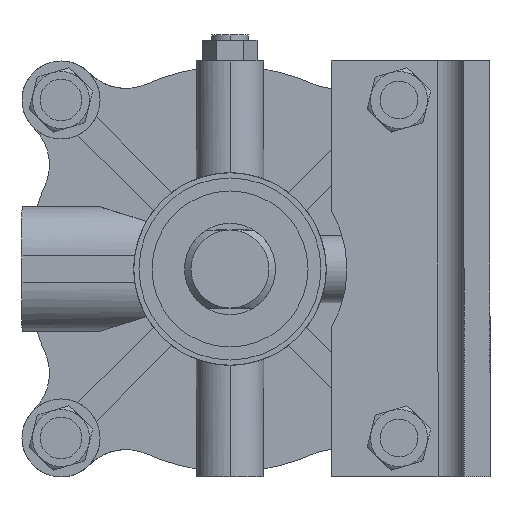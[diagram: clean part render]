
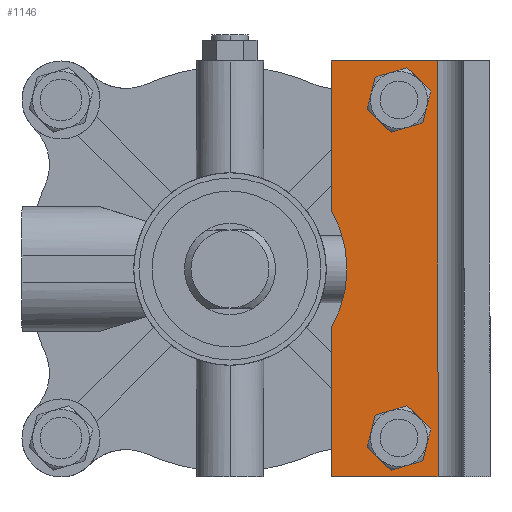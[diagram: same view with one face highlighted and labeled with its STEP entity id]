
A CAD part, left-side view. The second image highlights one B-rep face of the part: STEP entity #1146.
In plain terms, the highlighted planar face has unit normal (-1, 0, 0) as drawn and (0, 0, 1) by its records, which use the part's own axes.
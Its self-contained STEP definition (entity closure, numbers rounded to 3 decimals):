
#6 = DIRECTION ( 'NONE',  ( 0., 0., 1. ) ) ;
#55 = CARTESIAN_POINT ( 'NONE',  ( 65., -50.135, 0. ) ) ;
#185 = CARTESIAN_POINT ( 'NONE',  ( 80., -24.135, 0. ) ) ;
#417 = AXIS2_PLACEMENT_3D ( 'NONE', #55, #5046, #1692 ) ;
#737 = DIRECTION ( 'NONE',  ( 1., 0., 0. ) ) ;
#896 = CARTESIAN_POINT ( 'NONE',  ( -73., -50.135, 0. ) ) ;
#991 = ORIENTED_EDGE ( 'NONE', *, *, #3270, .F. ) ;
#996 = EDGE_CURVE ( 'NONE', #4505, #3107, #3037, .T. ) ;
#1135 = AXIS2_PLACEMENT_3D ( 'NONE', #4994, #6, #6012 ) ;
#1146 = ADVANCED_FACE ( 'NONE', ( #7066, #9922, #4063 ), #3907, .T. ) ;
#1391 = VECTOR ( 'NONE', #8761, 1000. ) ;
#1453 = CARTESIAN_POINT ( 'NONE',  ( 0., 14.865, 0. ) ) ;
#1692 = DIRECTION ( 'NONE',  ( 1., 0., 0. ) ) ;
#1942 = ORIENTED_EDGE ( 'NONE', *, *, #1997, .T. ) ;
#1997 = EDGE_CURVE ( 'NONE', #3107, #2537, #9302, .T. ) ;
#2447 = VERTEX_POINT ( 'NONE', #896 ) ;
#2537 = VERTEX_POINT ( 'NONE', #2727 ) ;
#2727 = CARTESIAN_POINT ( 'NONE',  ( -80., -65.135, 0. ) ) ;
#2734 = ORIENTED_EDGE ( 'NONE', *, *, #7710, .F. ) ;
#3037 = LINE ( 'NONE', #10081, #8771 ) ;
#3107 = VERTEX_POINT ( 'NONE', #4504 ) ;
#3143 = VECTOR ( 'NONE', #9564, 1000. ) ;
#3154 = CARTESIAN_POINT ( 'NONE',  ( 57., -50.135, 0. ) ) ;
#3165 = DIRECTION ( 'NONE',  ( 1., 0., 0. ) ) ;
#3270 = EDGE_CURVE ( 'NONE', #5306, #2447, #4562, .T. ) ;
#3376 = CARTESIAN_POINT ( 'NONE',  ( 65., -50.135, 0. ) ) ;
#3545 = VECTOR ( 'NONE', #6857, 1000. ) ;
#3907 = PLANE ( 'NONE',  #7722 ) ;
#3994 = ORIENTED_EDGE ( 'NONE', *, *, #5578, .T. ) ;
#4004 = EDGE_CURVE ( 'NONE', #9782, #9675, #6440, .T. ) ;
#4063 = FACE_BOUND ( 'NONE', #9184, .T. ) ;
#4109 = CIRCLE ( 'NONE', #417, 8. ) ;
#4504 = CARTESIAN_POINT ( 'NONE',  ( -80., -24.135, 0. ) ) ;
#4505 = VERTEX_POINT ( 'NONE', #4996 ) ;
#4551 = EDGE_CURVE ( 'NONE', #2447, #5306, #8368, .T. ) ;
#4559 = DIRECTION ( 'NONE',  ( -1., 0., 0. ) ) ;
#4562 = CIRCLE ( 'NONE', #1135, 8. ) ;
#4623 = ORIENTED_EDGE ( 'NONE', *, *, #5002, .F. ) ;
#4708 = LINE ( 'NONE', #9091, #3143 ) ;
#4717 = CARTESIAN_POINT ( 'NONE',  ( 0., -24.135, 0. ) ) ;
#4884 = EDGE_CURVE ( 'NONE', #2537, #7926, #9723, .T. ) ;
#4994 = CARTESIAN_POINT ( 'NONE',  ( -65., -50.135, 0. ) ) ;
#4996 = CARTESIAN_POINT ( 'NONE',  ( -22.45, -24.135, 0. ) ) ;
#5002 = EDGE_CURVE ( 'NONE', #6507, #7926, #4708, .T. ) ;
#5005 = CARTESIAN_POINT ( 'NONE',  ( -65., -50.135, 0. ) ) ;
#5046 = DIRECTION ( 'NONE',  ( 0., 0., 1. ) ) ;
#5226 = DIRECTION ( 'NONE',  ( 0., 0., 1. ) ) ;
#5306 = VERTEX_POINT ( 'NONE', #9323 ) ;
#5533 = DIRECTION ( 'NONE',  ( 0., 0., 1. ) ) ;
#5574 = CARTESIAN_POINT ( 'NONE',  ( 80., -65.135, 0. ) ) ;
#5578 = EDGE_CURVE ( 'NONE', #6507, #9926, #6881, .T. ) ;
#5731 = ORIENTED_EDGE ( 'NONE', *, *, #4551, .F. ) ;
#5806 = EDGE_CURVE ( 'NONE', #4505, #9926, #10312, .T. ) ;
#6012 = DIRECTION ( 'NONE',  ( 1., 0., 0. ) ) ;
#6386 = CARTESIAN_POINT ( 'NONE',  ( 0., -65.135, 0. ) ) ;
#6424 = CARTESIAN_POINT ( 'NONE',  ( 73., -50.135, 0. ) ) ;
#6440 = CIRCLE ( 'NONE', #10033, 8. ) ;
#6507 = VERTEX_POINT ( 'NONE', #185 ) ;
#6857 = DIRECTION ( 'NONE',  ( 1., 0., 0. ) ) ;
#6881 = LINE ( 'NONE', #4717, #1391 ) ;
#7066 = FACE_OUTER_BOUND ( 'NONE', #9172, .T. ) ;
#7333 = DIRECTION ( 'NONE',  ( 0., 0., 1. ) ) ;
#7413 = DIRECTION ( 'NONE',  ( 1., 0., 0. ) ) ;
#7494 = AXIS2_PLACEMENT_3D ( 'NONE', #5005, #7868, #3165 ) ;
#7710 = EDGE_CURVE ( 'NONE', #9675, #9782, #4109, .T. ) ;
#7722 = AXIS2_PLACEMENT_3D ( 'NONE', #9764, #5226, #737 ) ;
#7868 = DIRECTION ( 'NONE',  ( 0., 0., 1. ) ) ;
#7926 = VERTEX_POINT ( 'NONE', #5574 ) ;
#7978 = EDGE_LOOP ( 'NONE', ( #991, #5731 ) ) ;
#8368 = CIRCLE ( 'NONE', #7494, 8. ) ;
#8420 = AXIS2_PLACEMENT_3D ( 'NONE', #1453, #7333, #8670 ) ;
#8444 = ORIENTED_EDGE ( 'NONE', *, *, #996, .T. ) ;
#8670 = DIRECTION ( 'NONE',  ( 1., 0., 0. ) ) ;
#8761 = DIRECTION ( 'NONE',  ( -1., 0., 0. ) ) ;
#8771 = VECTOR ( 'NONE', #4559, 1000. ) ;
#8806 = DIRECTION ( 'NONE',  ( 0., -1., 0. ) ) ;
#9091 = CARTESIAN_POINT ( 'NONE',  ( 80., 0., 0. ) ) ;
#9172 = EDGE_LOOP ( 'NONE', ( #1942, #9174, #4623, #3994, #9998, #8444 ) ) ;
#9174 = ORIENTED_EDGE ( 'NONE', *, *, #4884, .T. ) ;
#9184 = EDGE_LOOP ( 'NONE', ( #2734, #9345 ) ) ;
#9302 = LINE ( 'NONE', #9461, #9640 ) ;
#9323 = CARTESIAN_POINT ( 'NONE',  ( -57., -50.135, 0. ) ) ;
#9345 = ORIENTED_EDGE ( 'NONE', *, *, #4004, .F. ) ;
#9439 = CARTESIAN_POINT ( 'NONE',  ( 22.45, -24.135, 0. ) ) ;
#9461 = CARTESIAN_POINT ( 'NONE',  ( -80., 0., 0. ) ) ;
#9564 = DIRECTION ( 'NONE',  ( 0., -1., 0. ) ) ;
#9640 = VECTOR ( 'NONE', #8806, 1000. ) ;
#9675 = VERTEX_POINT ( 'NONE', #6424 ) ;
#9723 = LINE ( 'NONE', #6386, #3545 ) ;
#9764 = CARTESIAN_POINT ( 'NONE',  ( 0., 0., 0. ) ) ;
#9782 = VERTEX_POINT ( 'NONE', #3154 ) ;
#9922 = FACE_BOUND ( 'NONE', #7978, .T. ) ;
#9926 = VERTEX_POINT ( 'NONE', #9439 ) ;
#9998 = ORIENTED_EDGE ( 'NONE', *, *, #5806, .F. ) ;
#10033 = AXIS2_PLACEMENT_3D ( 'NONE', #3376, #5533, #7413 ) ;
#10081 = CARTESIAN_POINT ( 'NONE',  ( 0., -24.135, 0. ) ) ;
#10312 = CIRCLE ( 'NONE', #8420, 45. ) ;
